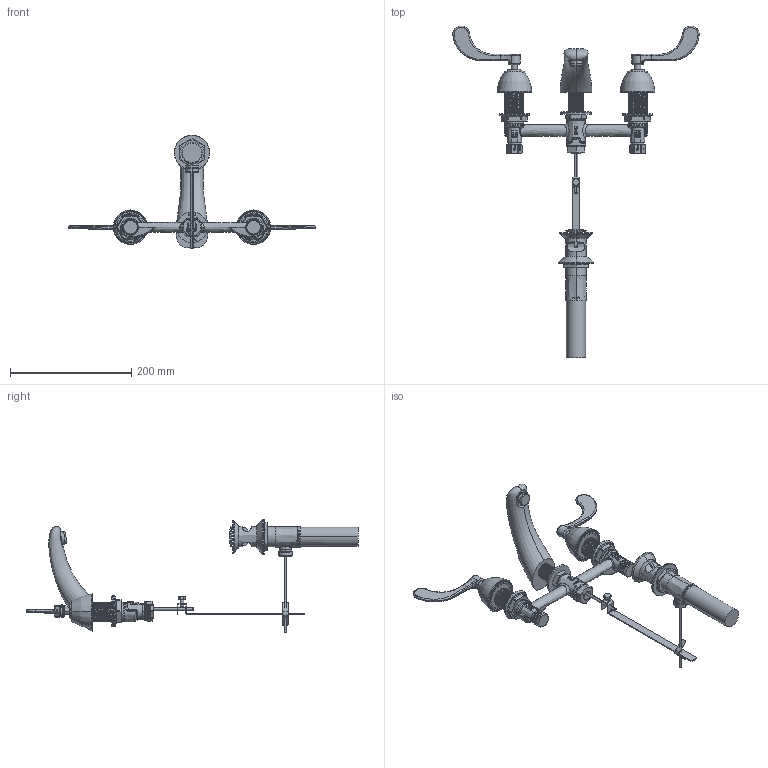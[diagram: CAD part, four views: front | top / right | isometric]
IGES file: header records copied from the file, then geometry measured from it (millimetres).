
Start section:  PTC IGES file: 404-317POABCP.igs
Global section: file name: 404-317POABCP.igs; native system: Creo Parametric by PTC Inc.; preprocessor: 2017260; author: usch_engrender; organization: Unknown; date: 20180531.165946; units: inch
Bounding box: 406.39 x 547.53 x 187.96 mm (x, y, z)
Surface area: 192634.9 mm2 (no closed solid volume)
Topology: 0 solids, 108 shells, 1197 faces, 3267 edges, 2149 vertices
Faces by surface type: revolution 731, bspline 466
